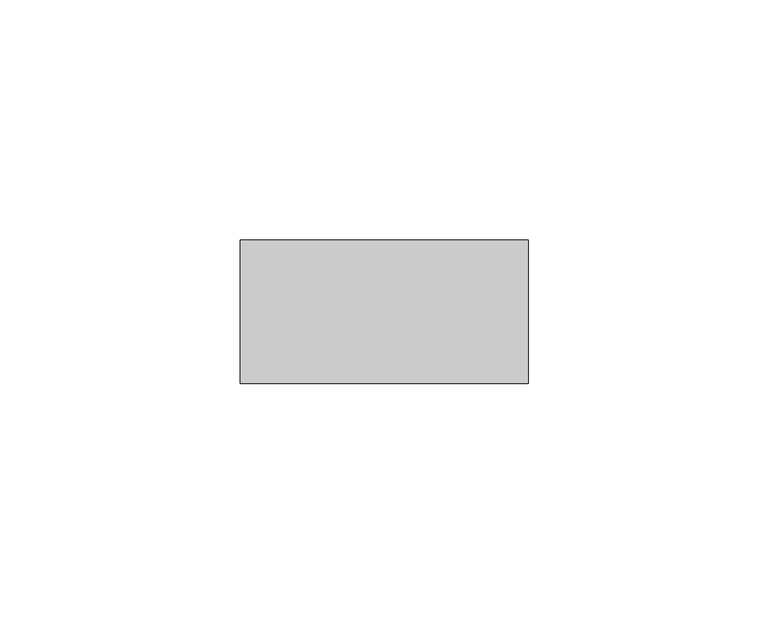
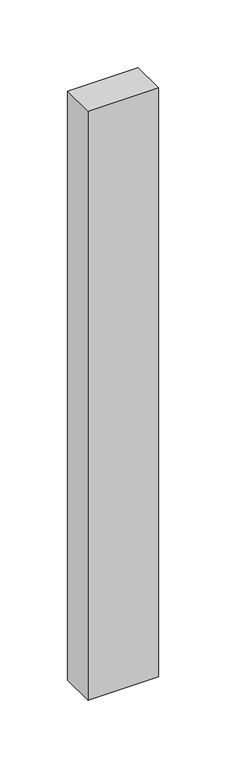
"""IFC4 building model written with IfcOpenShell, lengths in millimetres: member geometry, Прямоугольный импост : Квадрат 30 мм."""

import ifcopenshell
import ifcopenshell.guid

model = None  # the IFC model being written
_history = None  # IfcOwnerHistory: only IFC2X3 demands one
_inside = {}  # id of a spatial element -> (the spatial element, [elements in it])
_under = {}  # id of a project, library or spatial element -> (it, [spatial elements below it])
_declared = {}  # id of a project -> (the project, [libraries it declares])
_typed = {}  # id of a type object -> (the type object, [elements of that type])
_made_of = {}  # id of a material, layer set ... -> (it, [elements and type objects made of it])


def new_model(schema):
    """Start an empty IFC model of exactly this schema.

    Asked for "IFC4X3", IfcOpenShell would pick the latest addendum, in which some entities
    have other attributes; the version numbers below select the first issue.
    IFC2X3 requires an IfcOwnerHistory on every rooted entity: one is made here for all.
    """
    global model, _history
    if schema == "IFC4X3":
        model = ifcopenshell.file(schema_version=(4, 3, 0, 0))
    else:
        model = ifcopenshell.file(schema=schema)
    _inside.clear()
    _under.clear()
    _declared.clear()
    _typed.clear()
    _made_of.clear()
    _history = None
    if model.schema == "IFC2X3":
        org = make("IfcOrganization", Name="unknown")
        user = make(
            "IfcPersonAndOrganization",
            ThePerson=make("IfcPerson", FamilyName="unknown"),
            TheOrganization=org,
        )
        app = make(
            "IfcApplication",
            ApplicationDeveloper=org,
            Version="unknown",
            ApplicationFullName="unknown",
            ApplicationIdentifier="unknown",
        )
        _history = make(
            "IfcOwnerHistory",
            OwningUser=user,
            OwningApplication=app,
            ChangeAction="ADDED",
            CreationDate=0,
        )
    return model


def make(cls, **values):
    """One entity of the class cls with the attributes given. An attribute that is None is left unset."""
    return model.create_entity(
        cls, **{name: value for name, value in values.items() if value is not None}
    )


def rooted(cls, **values):
    """An entity with a GlobalId (a new one), such as an element, a storey or a relation."""
    return make(cls, GlobalId=ifcopenshell.guid.new(), OwnerHistory=_history, **values)


def si_unit(unit_type, name, prefix=None):
    """IfcSIUnit, for example si_unit("LENGTHUNIT", "METRE", prefix="MILLI")."""
    return make("IfcSIUnit", UnitType=unit_type, Prefix=prefix, Name=name)


def assignment(units):
    """IfcUnitAssignment: the units of a project."""
    return None if units is None else make("IfcUnitAssignment", Units=units)


def point(xyz):
    """IfcCartesianPoint."""
    return None if xyz is None else make("IfcCartesianPoint", Coordinates=xyz)


def direction(xyz):
    """IfcDirection."""
    return None if xyz is None else make("IfcDirection", DirectionRatios=xyz)


def frame(location, z_axis=None, x_axis=None):
    """IfcAxis2Placement3D, a coordinate frame: its origin and axes. An axis left out is left unset."""
    return make(
        "IfcAxis2Placement3D",
        Location=point(location),
        Axis=direction(z_axis),
        RefDirection=direction(x_axis),
    )


def origin():
    """The frame at (0, 0, 0) with its axes left unset."""
    return frame((0.0, 0.0, 0.0))


def place(relative_to, where):
    """IfcLocalPlacement: puts the frame where relative to a parent placement (None: the world)."""
    return make(
        "IfcLocalPlacement", PlacementRelTo=relative_to, RelativePlacement=where
    )


def context(
    kind, dimensions, precision=None, world=None, true_north=None, identifier=None
):
    """IfcGeometricRepresentationContext, for example the 3D "Model" context."""
    return make(
        "IfcGeometricRepresentationContext",
        ContextIdentifier=identifier,
        ContextType=kind,
        CoordinateSpaceDimension=dimensions,
        Precision=precision,
        WorldCoordinateSystem=world,
        TrueNorth=true_north,
    )


def project(units=None, contexts=None):
    """IfcProject with its units and contexts."""
    return rooted(
        "IfcProject",
        Name="project",
        RepresentationContexts=contexts,
        UnitsInContext=assignment(units),
    )


def spatial(cls, under=None, at=None, **own):
    """A site, building, storey or space (cls), placed at a placement, below another one or the project."""
    s = rooted(cls, ObjectPlacement=at, **own)
    if under is not None:
        _under.setdefault(under.id(), (under, []))[1].append(s)
    return s


def polyline(points):
    """IfcPolyline through the points."""
    return make("IfcPolyline", Points=[point(p) for p in points])


def outline(outer, holes=None, kind="AREA"):
    """IfcArbitraryClosedProfileDef: a profile drawn as a closed curve; with holes, ...WithVoids."""
    if holes is None:
        return make("IfcArbitraryClosedProfileDef", ProfileType=kind, OuterCurve=outer)
    return make(
        "IfcArbitraryProfileDefWithVoids",
        ProfileType=kind,
        OuterCurve=outer,
        InnerCurves=holes,
    )


def extrude(swept, where, along, depth):
    """IfcExtrudedAreaSolid: the profile swept, set in the frame where, extruded along a direction by depth."""
    return make(
        "IfcExtrudedAreaSolid",
        SweptArea=swept,
        Position=where,
        ExtrudedDirection=direction(along),
        Depth=depth,
    )


def shape(context_of_items, identifier, shape_type, items):
    """IfcShapeRepresentation: the items that make up one representation, for example the "Body"."""
    return make(
        "IfcShapeRepresentation",
        ContextOfItems=context_of_items,
        RepresentationIdentifier=identifier,
        RepresentationType=shape_type,
        Items=items,
    )


def source(mapping_origin, context_of_items, identifier, shape_type, items):
    """IfcRepresentationMap: a shape defined once, which mapped items show again and again."""
    return make(
        "IfcRepresentationMap",
        MappingOrigin=mapping_origin,
        MappedRepresentation=shape(context_of_items, identifier, shape_type, items),
    )


def transform(
    local_origin,
    x_axis=None,
    y_axis=None,
    z_axis=None,
    scale=None,
    scale2=None,
    scale3=None,
    uniform=True,
):
    """IfcCartesianTransformationOperator3D, or its non-uniform kind. x_axis, y_axis, z_axis: its Axis1, 2, 3."""
    if uniform:
        return make(
            "IfcCartesianTransformationOperator3D",
            Axis1=direction(x_axis),
            Axis2=direction(y_axis),
            LocalOrigin=point(local_origin),
            Scale=scale,
            Axis3=direction(z_axis),
        )
    return make(
        "IfcCartesianTransformationOperator3DnonUniform",
        Axis1=direction(x_axis),
        Axis2=direction(y_axis),
        LocalOrigin=point(local_origin),
        Scale=scale,
        Axis3=direction(z_axis),
        Scale2=scale2,
        Scale3=scale3,
    )


def mapped(mapping_source, mapping_target):
    """IfcMappedItem: shows the shape of a source again, moved by a transform."""
    return make(
        "IfcMappedItem", MappingSource=mapping_source, MappingTarget=mapping_target
    )


def made_of(thing, what):
    """Note that an element or type object is made of a material, layer set ...; save() writes the relation."""
    if what is not None:
        _made_of.setdefault(what.id(), (what, []))[1].append(thing)
    return thing


def element(
    cls,
    number,
    at=None,
    inside=None,
    cuts=None,
    type_object=None,
    material=None,
    context=None,
    identifier="Body",
    shape_type=None,
    held_by="IfcProductDefinitionShape",
    body=None,
    shapes=None,
    **own,
):
    """One element of the class cls, such as IfcWall. Its Tag is "e" and its number.

    at: its placement. inside: the storey or other place that contains it. cuts: it is an
    opening in that element (IfcRelVoidsElement). A single representation is given by context,
    identifier, shape_type and body (its items); several are given by shapes. held_by: the class
    of the entity that holds the representations. save() writes the other relations.
    """
    e = rooted(cls, Tag="e%d" % number, ObjectPlacement=at, **own)
    if body is not None:
        shapes = [shape(context, identifier, shape_type, body)]
    if shapes is not None:
        e.Representation = make(held_by, Representations=shapes)
    if inside is not None:
        _inside.setdefault(inside.id(), (inside, []))[1].append(e)
    if cuts is not None:
        rooted(
            "IfcRelVoidsElement", RelatingBuildingElement=cuts, RelatedOpeningElement=e
        )
    if type_object is not None:
        _typed.setdefault(type_object.id(), (type_object, []))[1].append(e)
    return made_of(e, material)


def aggregate(whole, parts):
    """IfcRelAggregates: a whole, such as a stair, and the parts it consists of."""
    return rooted("IfcRelAggregates", RelatingObject=whole, RelatedObjects=parts)


def save(model, path):
    """Write the relations noted so far, then the file.

    IfcRelAggregates (storeys below a building ...), IfcRelContainedInSpatialStructure (elements
    in a storey), IfcRelDefinesByType, IfcRelAssociatesMaterial and IfcRelDeclares: one each for
    every whole, place, type object, material and project.
    """
    for whole, parts in _under.values():
        aggregate(whole, parts)
    for where, things in _inside.values():
        rooted(
            "IfcRelContainedInSpatialStructure",
            RelatedElements=things,
            RelatingStructure=where,
        )
    for kind, things in _typed.values():
        rooted("IfcRelDefinesByType", RelatedObjects=things, RelatingType=kind)
    for what, things in _made_of.values():
        rooted("IfcRelAssociatesMaterial", RelatedObjects=things, RelatingMaterial=what)
    for by, libraries in _declared.values():
        rooted("IfcRelDeclares", RelatingContext=by, RelatedDefinitions=libraries)
    model.write(path)


def member_5d7413d9(model_context):
    return source(origin(), model_context, "Body", "SweptSolid", [
        extrude(outline(polyline([(30.0, 15.0), (30.0, -15.0), (-30.0, -15.0), (-30.0, 15.0), (30.0, 15.0)])), frame((0.0, 0.0, -530.5), z_axis=(0.0, 0.0, 1.0), x_axis=(1.0, 0.0, 0.0)), (0.0, 0.0, 1.0), 530.5),
    ])


if __name__ == "__main__":
    model = new_model("IFC4")
    model_context = context("Model", 3, world=origin())
    ifc_project = project(units=[si_unit("LENGTHUNIT", "METRE", prefix="MILLI")], contexts=[model_context])
    site = spatial("IfcSite", under=ifc_project)
    building = spatial("IfcBuilding", under=site)
    placement = place(None, origin())
    member_shape = member_5d7413d9(model_context)
    element("IfcMember", 1, ObjectType="Прямоугольный импост : Квадрат 30 мм", at=placement, inside=building, context=model_context, shape_type="MappedRepresentation", body=[
        mapped(member_shape, transform((0.0, 0.0, 0.0), x_axis=(1.0, 0.0, 0.0), y_axis=(0.0, 1.0, 0.0), z_axis=(0.0, 0.0, 1.0))),
    ])
    save(model, "model.ifc")
